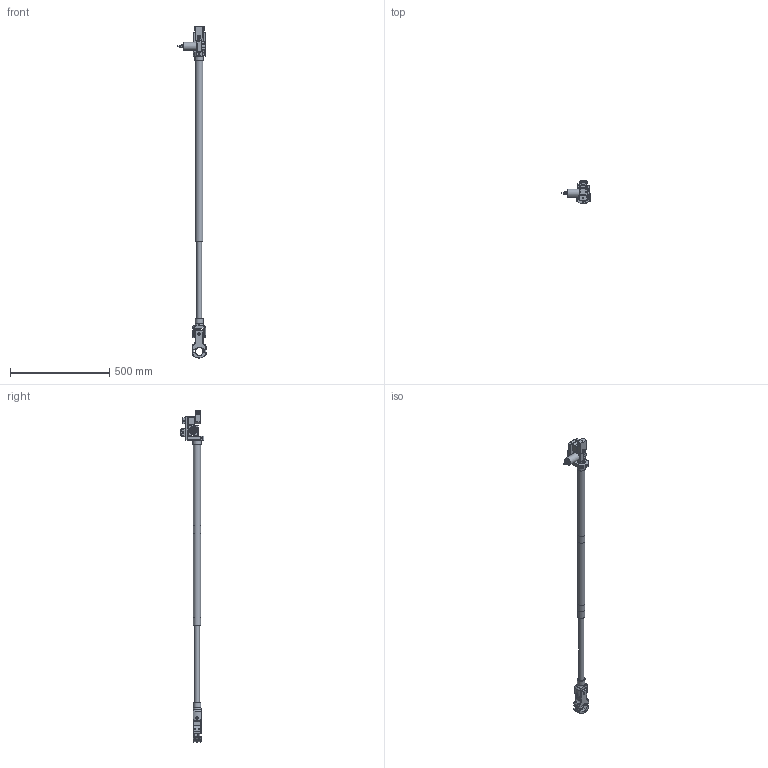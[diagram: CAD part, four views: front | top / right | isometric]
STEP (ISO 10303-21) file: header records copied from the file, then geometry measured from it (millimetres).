
FILE_DESCRIPTION( ( 'Unknown' ), '1' );
FILE_NAME( 'E:/0 Travail/0 Travaux en cours/Doga/Assemblage 2014/BIBLIOTEQUE 3D/Assemblage 2013/13-36-3877 DMF 140 LAPC DOGA/4-1200594-bras DMF 140 LPC_2000/4-1200594-bras DMF 140 LPC_2000.stp', 'Unknown', ( 'Unknown' ), ( 'Unknown' ), 'PSStep 14.0', 'Unknown', ' ' );
FILE_SCHEMA( ( 'AUTOMOTIVE_DESIGN { 1 0 10303 214 1 1 1 1 }' ) );
Length unit declared in the file: millimetre
Products named in the file (57): SX50-1250-10V-KA-M4; SX50-1250-10V-KA-M4_12; SX50-1250-10V-KA-M4_13; SX50-1250-10V-KA-M4_10; SX50-1250-10V-KA-M4_11; SX50-1250-10V-KA-M4_14; SX50-1250-10V-KA-M4_15; SX50-1250-10V-KA-M4_1; SX50-1250-10V-KA-M4_7; SX50-1250-10V-KA-M4_4; SX50-1250-10V-KA-M4_2; SX50-1250-10V-KA-M4_3; SX50-1250-10V-KA-M4_6; SX50-1250-10V-KA-M4_5; SX50-1250-10V-KA-M4_16; axe dia16 pour capteur d'angle assemblé DMF30 PC; Aimant; Rondelle AS1226; Rondelle AS1226-oa0; Butée à aiguilles AXK1226; Anneau élastique pour arbre 12; Axe Ø16 pour DMF30 PC ; Sous ens chape de pince DMF140; Chape pour pince DMF140; axe chape premium; Tube dia 36-32 DMF140 LAPC long 2000; bague de serrage pour DMF80 PC; Tube dia 32x36 DMF140 LAPC long 2000; Bague dia 25,1x32 L40; Bague dia 25,1x31 L40; Jonc dia 25 DMF140 LAPC long 2000; Bague dia 25,1x32 L40-oa1; Sous ensemble accrochage DMF140 LAPC; platine support capteur DMF80 PC; platine fixation carbone pour DMF80 PC; fourreau  pour DMF30 PC; Capteur de position angulaire QUADRO-R; Boitier de dérivation; Rondelle AS1730; Butée à aiguilles AXK1730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
Assembly tree (58 placements, depth 4):
  Assem1
    Sous ensemble accrochage DMF140 LAPC
      platine support capteur DMF80 PC
      platine fixation carbone pour DMF80 PC
      fourreau  pour DMF30 PC
      Capteur de position angulaire QUADRO-R
      Boitier de dérivation
      Rondelle AS1730  x2
      Butée à aiguilles AXK1730
      support fixation bras DMF30 et 80 LAPC
      Roulement à aiguilles HK1616  x2
      Rondelle pour axe équerre DMF30 et 80 APC
      Axe pour équerre DMF 30 et 80 APC
      06 L
      SX50-1250-10V-KA-M4
        SX50-1250-10V-KA-M4_12
        SX50-1250-10V-KA-M4_13
        SX50-1250-10V-KA-M4_10
        SX50-1250-10V-KA-M4_11
        SX50-1250-10V-KA-M4_14
        SX50-1250-10V-KA-M4_15
        SX50-1250-10V-KA-M4_1
        SX50-1250-10V-KA-M4_7
        SX50-1250-10V-KA-M4
        SX50-1250-10V-KA-M4_4
        SX50-1250-10V-KA-M4_2
        SX50-1250-10V-KA-M4_3
        SX50-1250-10V-KA-M4_6
        SX50-1250-10V-KA-M4_5
        SX50-1250-10V-KA-M4_16
      axe dia16 pour capteur d'angle assemblé DMF30 PC
        Aimant
        Rondelle AS1226
        Rondelle AS1226-oa0
        Butée à aiguilles AXK1226
        Anneau élastique pour arbre 12
        Axe Ø16 pour DMF30 PC 
    Tube dia 36-32 DMF140 LAPC long 2000
      bague de serrage pour DMF80 PC
      Tube dia 32x36 DMF140 LAPC long 2000
      Bague dia 25,1x32 L40
      Bague dia 25,1x31 L40
    Jonc dia 25 DMF140 LAPC long 2000
      Jonc dia 25 DMF140 LAPC long 2000
      Bague dia 25,1x32 L40-oa1
    Sous ens chape de pince DMF140
      Chape pour pince DMF140
      axe chape premium
    Sous ens Pince DMF80
      Collier BA100
      Collier BA100-oa2
      CHC M6x45 fileté sous tete
      CHC M6x45 fileté sous tete-oa3
      CHC M6x45 fileté sous tete-oa4
      CHC M6x45 fileté sous tete-oa5
      Placement
      Pince DMF80
Bounding box: 142 x 118.7 x 1671.79 mm (x, y, z)
Volume: 1317196.9 mm3; surface area: 512479.5 mm2
Topology: 36 solids, 205 shells, 1147 faces, 3377 edges, 2439 vertices
Faces by surface type: plane 542, cylinder 471, cone 99, torus 14, revolution 14, bspline 5, sphere 2
Full cylindrical faces by diameter (mm): 1 x2, 1.221 x1, 2.459 x7, 2.5 x4, 3.2 x5, 3.5 x1, 4.134 x12, 4.3 x2, 4.5 x1, 4.917 x12, 5 x5, 5.2 x7, 5.8 x4, 6 x10, 6.1 x1, 6.2 x5, 6.5 x4, 6.647 x3, 7 x3, 8 x2, 8.2 x2, 8.5 x1, 9 x4, 9.3 x1, 10 x5, 10.5 x3, 11.5 x1, 12 x16, 13 x2, 14 x1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
Entity records: 55918 total; most frequent: CARTESIAN_POINT 19439, DIRECTION 5340, ORIENTED_EDGE 4962, EDGE_CURVE 2980, VERTEX_POINT 2338, AXIS2_PLACEMENT_3D 2064, EDGE_LOOP 1604, LINE 1198
